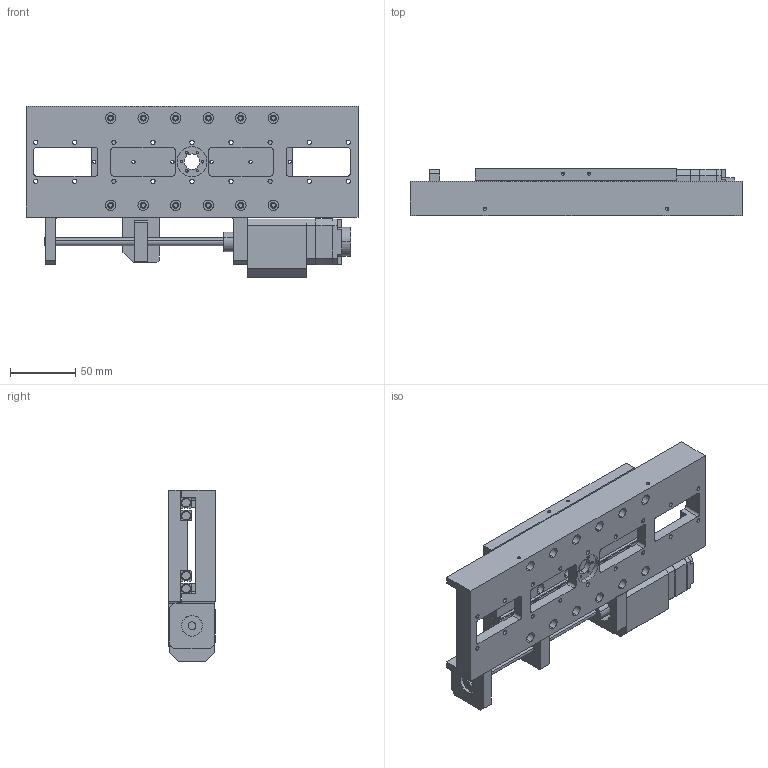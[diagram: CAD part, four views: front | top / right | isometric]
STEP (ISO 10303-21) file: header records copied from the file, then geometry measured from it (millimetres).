
FILE_DESCRIPTION (( 'STEP AP214' ), '1' );
FILE_NAME ('VSM17-X-100-HR.STEP', '2022-12-15T13:56:45', ( '' ), ( '' ), 'SwSTEP 2.0', 'SolidWorks 2022', '' );
FILE_SCHEMA (( 'AUTOMOTIVE_DESIGN' ));
Length unit declared in the file: millimetre
Products named in the file (10): Cap Head M4x12.VentSLDPRT; Simplified VSM17-X-100 Base V2; Simplified Drivetrain; Simplified Roller Bearing 100; Simplified Motor; Simplified Leadscrew Nut; Simplified Motor Gearbox; Simplified VSM17-X-100 Carriage; Simplified Gearbox; VSM17-X-100-HR
Assembly tree (23 placements, depth 3):
  VSM17-X-100-HR
    Simplified VSM17-X-100 Base V2
    Simplified Drivetrain
    Simplified Roller Bearing 100  x4
    Simplified VSM17-X-100 Carriage
    Simplified Leadscrew Nut
    Simplified Motor Gearbox
      Simplified Gearbox
      Simplified Motor
    Cap Head M4x12.VentSLDPRT  x12
Bounding box: 255 x 36 x 131.5 mm (x, y, z)
Volume: 541909.8 mm3; surface area: 171678.8 mm2
Topology: 22 solids, 22 shells, 1201 faces, 2922 edges, 1840 vertices
Faces by surface type: cylinder 512, plane 493, cone 132, torus 64
Entity records: 22295 total; most frequent: DIRECTION 3768, CARTESIAN_POINT 3482, ORIENTED_EDGE 3296, EDGE_CURVE 1648, AXIS2_PLACEMENT_3D 1450, VERTEX_POINT 1078, EDGE_LOOP 908, LINE 868
